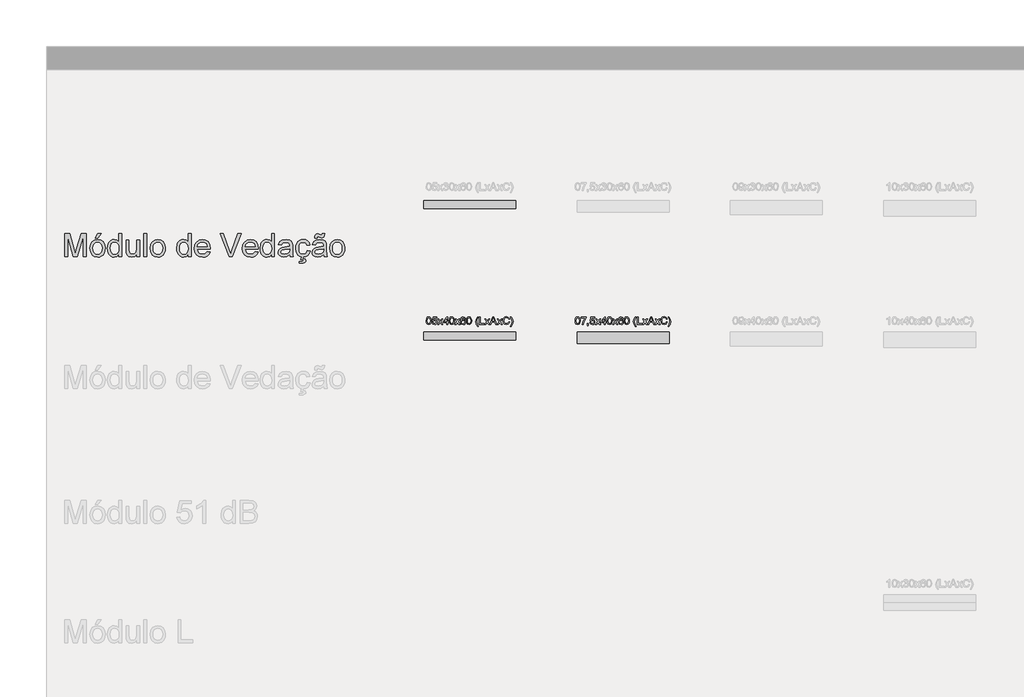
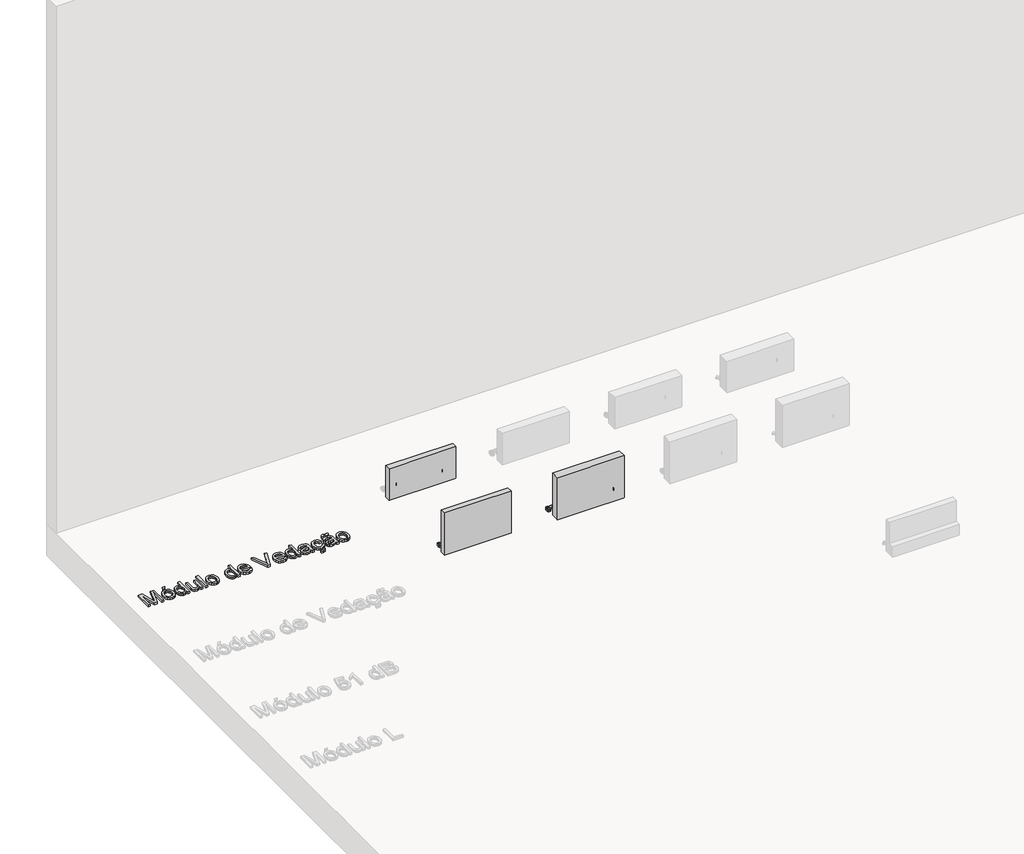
# One storey, part 17 of 26: 6 proxies.
"""IFC4 building model written with IfcOpenShell, lengths in millimetres."""

from ifc_helpers import new_model, si_unit, origin, origin_with_axes, place, context, project, spatial, polyline, outline, extrude, transform, mapped, element, save
from components import generic_models_c22f164a, generic_models_f29e977d, generic_models_ac451876

model = new_model("IFC4")

# Units and contexts
model_context = context("Model", 3, world=origin())
ifc_project = project(units=[si_unit("LENGTHUNIT", "METRE", prefix="MILLI")], contexts=[model_context])

# Site, building, storey
site = spatial("IfcSite", under=ifc_project)
building = spatial("IfcBuilding", under=site)
storey = spatial("IfcBuildingStorey", under=building, Name="Catálogo Celucon", Elevation=0.0)

# Proxies
placement = place(None, origin())
element("IfcBuildingElementProxy", 1, Name="Legenda Tabela de Módulos", ObjectType="Legenda Tabela de Módulos", at=placement, inside=storey, context=model_context, shape_type="SweptSolid", body=[
    extrude(outline(polyline([(-16139.397214, 985.3239878), (-16139.397214, 1136.0084531), (-16106.9868102, 1136.0084531), (-16076.158299, 1029.800921), (-16069.9410933, 1007.6176367), (-16063.2088528, 1031.640331), (-16032.8953764, 1136.0084531), (-16000.4849726, 1136.0084531), (-16000.4849726, 985.3239878), (-16019.3205308, 985.3239878), (-16019.3205308, 1117.1728949), (-16057.1755881, 985.3239878), (-16082.7065985, 985.3239878), (-16120.5616558, 1117.1728949), (-16120.5616558, 985.3239878), (-16139.397214, 985.3239878)])), origin_with_axes(), (0.0, 0.0, 1.0), 20.0),
    extrude(outline(polyline([(-15974.5860802, 1040.6534399), (-15970.5117871, 1067.3340816), (-15958.2889078, 1086.0868663), (-15943.1873519, 1095.2747191), (-15925.1059518, 1098.3373367), (-15905.318499, 1094.607933), (-15889.5133688, 1083.4197218), (-15879.1528921, 1065.65562), (-15875.6993999, 1042.1985443), (-15877.2261101, 1023.1698481), (-15881.806241, 1008.6844945), (-15889.3064352, 997.8365742), (-15899.5933354, 989.7201777), (-15911.8116162, 984.6572017), (-15925.1059518, 982.9695431), (-15945.1325279, 986.6851512), (-15960.919264, 997.8319757), (-15971.1693761, 1015.968558), (-15974.5860802, 1040.6534399)]), holes=[polyline([(-15955.750522, 1040.6902281), (-15953.5708212, 1023.6434962), (-15947.0317187, 1011.4987918), (-15937.1908754, 1004.2285239), (-15925.1059518, 1001.8051012), (-15913.0762106, 1004.2423194), (-15903.2537613, 1011.5539741), (-15896.7146588, 1023.8596268), (-15894.534958, 1041.2788393), (-15896.7284544, 1057.8289306), (-15903.3089436, 1069.808088), (-15913.1451884, 1077.078356), (-15925.1059518, 1079.5017786), (-15937.1908754, 1077.087553), (-15947.0317187, 1069.8448762), (-15953.5708212, 1057.727763), (-15955.750522, 1040.6902281)])]), origin_with_axes(), (0.0, 0.0, 1.0), 20.0),
    extrude(outline(polyline([(-15939.2694086, 1107.7551158), (-15925.14274, 1136.0084531), (-15901.5982923, 1136.0084531), (-15925.14274, 1107.7551158), (-15939.2694086, 1107.7551158)])), origin_with_axes(), (0.0, 0.0, 1.0), 20.0),
    extrude(outline(polyline([(-15786.2304986, 985.3239878), (-15786.2304986, 1003.0926882), (-15798.6925012, 988.0003293), (-15815.9185756, 982.9695431), (-15828.0954697, 984.7905589), (-15839.2422941, 990.2536066), (-15848.6784673, 998.9770084), (-15855.7234075, 1010.5790868), (-15860.1104003, 1024.5907923), (-15861.5727312, 1040.5430753), (-15856.18326, 1070.5254579), (-15849.4510195, 1082.4172434), (-15840.0332404, 1091.1636378), (-15828.6426942, 1096.543912), (-15815.992152, 1098.3373367), (-15798.6281219, 1093.2053829), (-15786.2304986, 1079.8696606), (-15786.2304986, 1136.0084531), (-15767.3949405, 1136.0084531), (-15767.3949405, 985.3239878), (-15786.2304986, 985.3239878)]), holes=[polyline([(-15842.7371731, 1040.6166517), (-15840.6126546, 1023.5791168), (-15834.239099, 1011.4620036), (-15824.9776698, 1004.2193268), (-15814.1895303, 1001.8051012), (-15803.4059893, 1004.1089622), (-15794.3790848, 1011.0205452), (-15788.2676452, 1022.6686089), (-15786.2304986, 1039.1819119), (-15788.3044334, 1057.2357208), (-15794.5262376, 1069.7529057), (-15803.7830683, 1077.0645604), (-15814.9620825, 1079.5017786), (-15825.8605866, 1077.1611294), (-15834.790922, 1070.1391818), (-15840.7506103, 1058.0772509), (-15842.7371731, 1040.6166517)])]), origin_with_axes(), (0.0, 0.0, 1.0), 20.0),
    extrude(outline(polyline([(-15668.5082602, 985.3239878), (-15668.5082602, 1004.343487), (-15683.2603282, 988.313029), (-15702.5005565, 982.9695431), (-15720.2140746, 986.7219394), (-15732.4277568, 996.1397185), (-15738.0379573, 1010.0088697), (-15739.1416032, 1027.5200527), (-15739.1416032, 1095.982892), (-15720.3060451, 1095.982892), (-15720.3060451, 1036.3860088), (-15719.1656109, 1017.1825686), (-15711.7160005, 1005.9069855), (-15697.6813024, 1001.8051012), (-15681.9543471, 1005.998956), (-15671.5616807, 1017.4216919), (-15668.5082602, 1038.4093597), (-15668.5082602, 1095.982892), (-15649.672702, 1095.982892), (-15649.672702, 985.3239878), (-15668.5082602, 985.3239878)])), origin_with_axes(), (0.0, 0.0, 1.0), 20.0),
    extrude(outline(polyline([(-15623.7738096, 985.3239878), (-15623.7738096, 1136.0084531), (-15604.9382514, 1136.0084531), (-15604.9382514, 985.3239878), (-15623.7738096, 985.3239878)])), origin_with_axes(), (0.0, 0.0, 1.0), 20.0),
    extrude(outline(polyline([(-15581.3938037, 1040.6534399), (-15577.3195106, 1067.3340816), (-15565.0966313, 1086.0868663), (-15549.9950754, 1095.2747191), (-15531.9136754, 1098.3373367), (-15512.1262226, 1094.607933), (-15496.3210923, 1083.4197218), (-15485.9606156, 1065.65562), (-15482.5071234, 1042.1985443), (-15484.0338337, 1023.1698481), (-15488.6139645, 1008.6844945), (-15496.1141587, 997.8365742), (-15506.401059, 989.7201777), (-15518.6193398, 984.6572017), (-15531.9136754, 982.9695431), (-15551.9402515, 986.6851512), (-15567.7269876, 997.8319757), (-15577.9770997, 1015.968558), (-15581.3938037, 1040.6534399)]), holes=[polyline([(-15562.5582456, 1040.6902281), (-15560.3785447, 1023.6434962), (-15553.8394423, 1011.4987918), (-15543.9985989, 1004.2285239), (-15531.9136754, 1001.8051012), (-15519.8839341, 1004.2423194), (-15510.0614849, 1011.5539741), (-15503.5223824, 1023.8596268), (-15501.3426816, 1041.2788393), (-15503.536178, 1057.8289306), (-15510.1166672, 1069.808088), (-15519.952912, 1077.078356), (-15531.9136754, 1079.5017786), (-15543.9985989, 1077.087553), (-15553.8394423, 1069.8448762), (-15560.3785447, 1057.727763), (-15562.5582456, 1040.6902281)])]), origin_with_axes(), (0.0, 0.0, 1.0), 20.0),
    extrude(outline(polyline([(-15334.177103, 985.3239878), (-15334.177103, 1003.0926882), (-15346.6391055, 988.0003293), (-15363.86518, 982.9695431), (-15376.042074, 984.7905589), (-15387.1888985, 990.2536066), (-15396.6250716, 998.9770084), (-15403.6700118, 1010.5790868), (-15408.0570046, 1024.5907923), (-15409.5193356, 1040.5430753), (-15404.1298643, 1070.5254579), (-15397.3976238, 1082.4172434), (-15387.9798448, 1091.1636378), (-15376.5892985, 1096.543912), (-15363.9387564, 1098.3373367), (-15346.5747262, 1093.2053829), (-15334.177103, 1079.8696606), (-15334.177103, 1136.0084531), (-15315.3415448, 1136.0084531), (-15315.3415448, 985.3239878), (-15334.177103, 985.3239878)]), holes=[polyline([(-15390.6837774, 1040.6166517), (-15388.5592589, 1023.5791168), (-15382.1857033, 1011.4620036), (-15372.9242741, 1004.2193268), (-15362.1361346, 1001.8051012), (-15351.3525936, 1004.1089622), (-15342.3256892, 1011.0205452), (-15336.2142495, 1022.6686089), (-15334.177103, 1039.1819119), (-15336.2510377, 1057.2357208), (-15342.472842, 1069.7529057), (-15351.7296727, 1077.0645604), (-15362.9086868, 1079.5017786), (-15373.8071909, 1077.1611294), (-15382.7375263, 1070.1391818), (-15388.6972146, 1058.0772509), (-15390.6837774, 1040.6166517)])]), origin_with_axes(), (0.0, 0.0, 1.0), 20.0),
    extrude(outline(polyline([(-15209.6122594, 1018.2862146), (-15191.1445832, 1015.9317698), (-15197.7986488, 1002.0166334), (-15208.4166429, 991.6147699), (-15222.7594422, 985.1308498), (-15240.5879234, 982.9695431), (-15262.6884342, 986.6989468), (-15279.6937795, 997.887158), (-15290.5371013, 1015.8076097), (-15294.1515419, 1039.7337349), (-15290.5003131, 1064.464602), (-15279.5466267, 1082.9598693), (-15262.7712077, 1094.4929699), (-15241.6547812, 1098.3373367), (-15221.1959437, 1094.5021669), (-15204.8481876, 1082.9966575), (-15194.1290259, 1064.5381784), (-15190.555972, 1039.8440995), (-15190.6663366, 1034.767328), (-15275.3159837, 1034.767328), (-15272.0556295, 1020.6682505), (-15264.481859, 1010.3031753), (-15253.5511652, 1003.9296197), (-15240.2200414, 1001.8051012), (-15221.7523652, 1005.7414386), (-15209.6122594, 1018.2862146)]), holes=[polyline([(-15275.3159837, 1053.6028861), (-15209.3915302, 1053.6028861), (-15211.939113, 1063.5540941), (-15216.9331111, 1070.6726107), (-15227.9143887, 1077.2944866), (-15241.7283576, 1079.5017786), (-15254.4248849, 1077.7405435), (-15264.9233174, 1072.4568384), (-15272.2211764, 1064.2208802), (-15275.3159837, 1053.6028861)])]), origin_with_axes(), (0.0, 0.0, 1.0), 20.0),
    extrude(outline(polyline([(-15065.9911285, 985.3239878), (-15125.9558937, 1136.0084531), (-15105.7959604, 1136.0084531), (-15065.6600347, 1027.4464763), (-15057.5298426, 1002.9823236), (-15049.5100151, 1027.4464763), (-15009.2637248, 1136.0084531), (-14989.1037915, 1136.0084531), (-15046.5301709, 985.3239878), (-15065.9911285, 985.3239878)])), origin_with_axes(), (0.0, 0.0, 1.0), 20.0),
    extrude(outline(polyline([(-14896.4711051, 1018.2862146), (-14878.0034289, 1015.9317698), (-14884.6574945, 1002.0166334), (-14895.2754886, 991.6147699), (-14909.6182879, 985.1308498), (-14927.4467691, 982.9695431), (-14949.54728, 986.6989468), (-14966.5526252, 997.887158), (-14977.395947, 1015.8076097), (-14981.0103876, 1039.7337349), (-14977.3591588, 1064.464602), (-14966.4054724, 1082.9598693), (-14949.6300534, 1094.4929699), (-14928.5136269, 1098.3373367), (-14908.0547894, 1094.5021669), (-14891.7070333, 1082.9966575), (-14880.9878716, 1064.5381784), (-14877.4148177, 1039.8440995), (-14877.5251823, 1034.767328), (-14962.1748294, 1034.767328), (-14958.9144753, 1020.6682505), (-14951.3407047, 1010.3031753), (-14940.4100109, 1003.9296197), (-14927.0788871, 1001.8051012), (-14908.6112109, 1005.7414386), (-14896.4711051, 1018.2862146)]), holes=[polyline([(-14962.1748294, 1053.6028861), (-14896.2503759, 1053.6028861), (-14898.7979587, 1063.5540941), (-14903.7919568, 1070.6726107), (-14914.7732344, 1077.2944866), (-14928.5872033, 1079.5017786), (-14941.2837306, 1077.7405435), (-14951.7821631, 1072.4568384), (-14959.0800222, 1064.2208802), (-14962.1748294, 1053.6028861)])]), origin_with_axes(), (0.0, 0.0, 1.0), 20.0),
    extrude(outline(polyline([(-14790.3003613, 985.3239878), (-14790.3003613, 1003.0926882), (-14802.7623639, 988.0003293), (-14819.9884383, 982.9695431), (-14832.1653323, 984.7905589), (-14843.3121568, 990.2536066), (-14852.74833, 998.9770084), (-14859.7932702, 1010.5790868), (-14864.180263, 1024.5907923), (-14865.6425939, 1040.5430753), (-14860.2531227, 1070.5254579), (-14853.5208822, 1082.4172434), (-14844.1031031, 1091.1636378), (-14832.7125568, 1096.543912), (-14820.0620147, 1098.3373367), (-14802.6979845, 1093.2053829), (-14790.3003613, 1079.8696606), (-14790.3003613, 1136.0084531), (-14771.4648031, 1136.0084531), (-14771.4648031, 985.3239878), (-14790.3003613, 985.3239878)]), holes=[polyline([(-14846.8070357, 1040.6166517), (-14844.6825172, 1023.5791168), (-14838.3089617, 1011.4620036), (-14829.0475324, 1004.2193268), (-14818.2593929, 1001.8051012), (-14807.4758519, 1004.1089622), (-14798.4489475, 1011.0205452), (-14792.3375078, 1022.6686089), (-14790.3003613, 1039.1819119), (-14792.374296, 1057.2357208), (-14798.5961003, 1069.7529057), (-14807.852931, 1077.0645604), (-14819.0319451, 1079.5017786), (-14829.9304492, 1077.1611294), (-14838.8607847, 1070.1391818), (-14844.820473, 1058.0772509), (-14846.8070357, 1040.6166517)])]), origin_with_axes(), (0.0, 0.0, 1.0), 20.0),
    extrude(outline(polyline([(-14672.5781228, 999.4506564), (-14690.8434639, 986.6851512), (-14711.0217913, 982.9695431), (-14726.7625422, 985.2044262), (-14738.3738177, 991.9090755), (-14745.533721, 1002.0902098), (-14747.9203554, 1014.7545474), (-14744.3151119, 1029.6537682), (-14734.8421505, 1040.4694989), (-14721.653581, 1046.6499164), (-14705.3564086, 1049.4826078), (-14672.6884874, 1055.9573309), (-14672.5781228, 1060.1511856), (-14673.8749069, 1068.5572892), (-14677.765259, 1074.0571251), (-14686.4656682, 1078.1406152), (-14698.5873799, 1079.5017786), (-14717.6436672, 1075.8781409), (-14726.7303525, 1063.0206652), (-14745.5659107, 1065.37511), (-14737.4173245, 1083.7692097), (-14721.0097875, 1094.5481522), (-14696.1593587, 1098.3373367), (-14673.3322809, 1094.9896106), (-14660.438017, 1086.583507), (-14654.6622697, 1073.7996077), (-14653.7425647, 1057.3184943), (-14653.7425647, 1033.8844112), (-14652.7860715, 1001.1613077), (-14649.0336751, 985.3239878), (-14667.8692333, 985.3239878), (-14672.5781228, 999.4506564)]), holes=[polyline([(-14672.5781228, 1037.1217728), (-14702.9651756, 1031.3460254), (-14719.1703775, 1028.2926049), (-14726.5096233, 1023.3261979), (-14729.0847973, 1016.0789226), (-14723.4745969, 1005.8885914), (-14707.0118776, 1001.8051012), (-14687.9555902, 1006.3116557), (-14675.6683316, 1017.2193568), (-14672.6884874, 1031.7874838), (-14672.5781228, 1037.1217728)])]), origin_with_axes(), (0.0, 0.0, 1.0), 20.0),
    extrude(outline(polyline([(-14557.2103291, 1025.3495489), (-14538.374771, 1022.9951041), (-14543.6262865, 1006.2426778), (-14553.494721, 993.5829386), (-14567.0511725, 985.622892), (-14583.8583326, 983.06037), (-14586.493736, 975.0968684), (-14571.7600621, 970.0936732), (-14566.6281082, 961.0805643), (-14568.4859123, 954.3299297), (-14574.0593245, 948.4254237), (-14583.3851331, 944.3143424), (-14596.5001262, 942.943982), (-14611.3625588, 942.943982), (-14611.3625588, 954.7162058), (-14600.9514984, 954.7162058), (-14586.309795, 956.8867096), (-14583.1092216, 960.9334115), (-14584.3968086, 963.600556), (-14589.1608804, 965.5871188), (-14600.1789462, 966.4884297), (-14594.9421317, 985.1082144), (-14603.4025122, 986.6713556), (-14619.0696866, 997.7767934), (-14629.181843, 1015.7984126), (-14632.5525618, 1040.2487697), (-14631.1132235, 1057.0103931), (-14626.7952085, 1071.5371334), (-14619.5295391, 1083.2679705), (-14609.2472374, 1091.6418844), (-14596.9461831, 1096.6634737), (-14583.6242564, 1098.3373367), (-14567.7087616, 1096.0380743), (-14554.9846431, 1089.1402869), (-14545.8565711, 1078.0118565), (-14540.7292158, 1063.0206652), (-14559.5647739, 1060.6662204), (-14568.3019713, 1074.774495), (-14583.4771036, 1079.5017786), (-14595.6493991, 1077.174925), (-14605.3109, 1070.1943641), (-14611.6154777, 1058.183017), (-14613.7170036, 1040.7638045), (-14611.661463, 1023.1100673), (-14605.494841, 1011.0573334), (-14596.0080841, 1004.1181593), (-14583.9921384, 1001.8051012), (-14574.238667, 1003.249038), (-14566.2418321, 1007.5808485), (-14560.4246981, 1014.9108973), (-14557.2103291, 1025.3495489)])), origin_with_axes(), (0.0, 0.0, 1.0), 20.0),
    extrude(outline(polyline([(-14451.2603145, 999.4506564), (-14469.5256556, 986.6851512), (-14489.703983, 982.9695431), (-14505.4447339, 985.2044262), (-14517.0560094, 991.9090755), (-14524.2159127, 1002.0902098), (-14526.6025471, 1014.7545474), (-14522.9973036, 1029.6537682), (-14513.5243422, 1040.4694989), (-14500.3357727, 1046.6499164), (-14484.0386003, 1049.4826078), (-14451.3706791, 1055.9573309), (-14451.2603145, 1060.1511856), (-14452.5570986, 1068.5572892), (-14456.4474507, 1074.0571251), (-14465.1478599, 1078.1406152), (-14477.2695716, 1079.5017786), (-14496.3258589, 1075.8781409), (-14505.4125442, 1063.0206652), (-14524.2481024, 1065.37511), (-14516.0995162, 1083.7692097), (-14499.6919792, 1094.5481522), (-14474.8415504, 1098.3373367), (-14452.0144726, 1094.9896106), (-14439.1202087, 1086.583507), (-14433.3444614, 1073.7996077), (-14432.4247564, 1057.3184943), (-14432.4247564, 1033.8844112), (-14431.4682632, 1001.1613077), (-14427.7158668, 985.3239878), (-14446.551425, 985.3239878), (-14451.2603145, 999.4506564)]), holes=[polyline([(-14451.2603145, 1037.1217728), (-14481.6473673, 1031.3460254), (-14497.8525692, 1028.2926049), (-14505.191815, 1023.3261979), (-14507.766989, 1016.0789226), (-14502.1567886, 1005.8885914), (-14485.6940693, 1001.8051012), (-14466.6377819, 1006.3116557), (-14454.3505233, 1017.2193568), (-14451.3706791, 1031.7874838), (-14451.2603145, 1037.1217728)])]), origin_with_axes(), (0.0, 0.0, 1.0), 20.0),
    extrude(outline(polyline([(-14510.1214338, 1107.7551158), (-14508.695891, 1119.3342016), (-14504.27211, 1128.3197194), (-14497.6042489, 1134.0862696), (-14489.2993128, 1136.0084531), (-14474.216151, 1129.9384001), (-14466.6009937, 1126.590674), (-14462.6094741, 1128.4852663), (-14460.6780936, 1136.0084531), (-14444.1969802, 1136.0084531), (-14445.8386536, 1123.647618), (-14450.1750626, 1114.8184501), (-14456.6267931, 1109.5209494), (-14464.614431, 1107.7551158), (-14479.5136518, 1113.4940749), (-14487.4599029, 1117.1728949), (-14491.9480632, 1114.7816619), (-14493.6403204, 1107.7551158), (-14510.1214338, 1107.7551158)])), origin_with_axes(), (0.0, 0.0, 1.0), 20.0),
    extrude(outline(polyline([(-14411.2347535, 1040.6534399), (-14407.1604604, 1067.3340816), (-14394.9375811, 1086.0868663), (-14379.8360252, 1095.2747191), (-14361.7546251, 1098.3373367), (-14341.9671723, 1094.607933), (-14326.1620421, 1083.4197218), (-14315.8015654, 1065.65562), (-14312.3480732, 1042.1985443), (-14313.8747834, 1023.1698481), (-14318.4549143, 1008.6844945), (-14325.9551085, 997.8365742), (-14336.2420087, 989.7201777), (-14348.4602895, 984.6572017), (-14361.7546251, 982.9695431), (-14381.7812012, 986.6851512), (-14397.5679373, 997.8319757), (-14407.8180494, 1015.968558), (-14411.2347535, 1040.6534399)]), holes=[polyline([(-14392.3991953, 1040.6902281), (-14390.2194945, 1023.6434962), (-14383.680392, 1011.4987918), (-14373.8395487, 1004.2285239), (-14361.7546251, 1001.8051012), (-14349.7248839, 1004.2423194), (-14339.9024346, 1011.5539741), (-14333.3633321, 1023.8596268), (-14331.1836313, 1041.2788393), (-14333.3771277, 1057.8289306), (-14339.9576169, 1069.808088), (-14349.7938617, 1077.078356), (-14361.7546251, 1079.5017786), (-14373.8395487, 1077.087553), (-14383.680392, 1069.8448762), (-14390.2194945, 1057.727763), (-14392.3991953, 1040.6902281)])]), origin_with_axes(), (0.0, 0.0, 1.0), 20.0),
])
element("IfcBuildingElementProxy", 2, Name="Dimensões", ObjectType="Dimensões", at=placement, inside=storey, context=model_context, shape_type="SweptSolid", body=[
    extrude(outline(polyline([(-13781.5709703, 567.890538), (-13779.725429, 582.3421691), (-13774.2439872, 590.6746963), (-13765.0898569, 593.4092858), (-13757.7567425, 591.790605), (-13752.6922337, 587.124635), (-13749.7491777, 579.6934187), (-13748.6087435, 567.890538), (-13750.4358908, 553.5002207), (-13755.8989384, 545.1492994), (-13765.0898569, 542.3963158), (-13776.5677752, 547.1787817), (-13780.3201715, 555.6737901), (-13781.5709703, 567.890538)]), holes=[polyline([(-13775.2924509, 567.9028008), (-13772.349395, 552.3107355), (-13765.0898569, 548.6748351), (-13757.8303189, 552.3229983), (-13754.8872629, 567.9028008), (-13757.732217, 583.3170564), (-13765.1634333, 587.1307664), (-13772.2512931, 583.7707775), (-13775.2924509, 567.9028008)])]), origin_with_axes(), (0.0, 0.0, 1.0), 20.0),
    extrude(outline(polyline([(-13743.1150391, 556.5229844), (-13736.8365197, 557.3077993), (-13733.6727345, 550.8392076), (-13727.1121723, 548.6748351), (-13719.2394976, 551.6853361), (-13716.4313317, 559.6745068), (-13719.061688, 567.1302486), (-13727.0140704, 569.8648381), (-13732.526169, 568.7734548), (-13736.0517048, 565.9407635), (-13742.3302242, 566.7255784), (-13736.8365197, 592.6244708), (-13712.5072571, 592.6244708), (-13712.5072571, 586.3459515), (-13731.7597482, 586.3459515), (-13734.4452867, 572.5135884), (-13725.2604996, 576.1433575), (-13714.5244767, 571.6429344), (-13710.1528123, 560.0669143), (-13714.0891497, 548.4173178), (-13719.7422697, 543.9015663), (-13727.1366978, 542.3963158), (-13738.2160772, 546.2652081), (-13743.1150391, 556.5229844)])), origin_with_axes(), (0.0, 0.0, 1.0), 20.0),
    extrude(outline(polyline([(-13707.0135526, 543.1811307), (-13693.5981225, 561.7223832), (-13706.2287377, 580.0674321), (-13698.6748941, 580.0674321), (-13692.5803157, 571.2382642), (-13689.7353616, 567.0689349), (-13687.2705522, 570.4779747), (-13680.3298452, 580.0674321), (-13672.7760016, 580.0674321), (-13686.0442789, 561.7223832), (-13673.2665109, 543.1811307), (-13680.8203546, 543.1811307), (-13688.5090883, 554.3279551), (-13689.9193026, 556.3635688), (-13699.459709, 543.1811307), (-13707.0135526, 543.1811307)])), origin_with_axes(), (0.0, 0.0, 1.0), 20.0),
    extrude(outline(polyline([(-13648.9372483, 543.1811307), (-13648.9372483, 554.9533545), (-13671.6968811, 554.9533545), (-13671.6968811, 561.2318739), (-13647.3676185, 592.6244708), (-13642.6587289, 592.6244708), (-13642.6587289, 561.2318739), (-13636.3802095, 561.2318739), (-13636.3802095, 554.9533545), (-13642.6587289, 554.9533545), (-13642.6587289, 543.1811307), (-13648.9372483, 543.1811307)]), holes=[polyline([(-13648.9372483, 561.2318739), (-13648.9372483, 580.6315178), (-13663.9713592, 561.2318739), (-13648.9372483, 561.2318739)])]), origin_with_axes(), (0.0, 0.0, 1.0), 20.0),
    extrude(outline(polyline([(-13630.8865051, 567.890538), (-13629.0409637, 582.3421691), (-13623.559522, 590.6746963), (-13614.4053917, 593.4092858), (-13607.0722773, 591.790605), (-13602.0077685, 587.124635), (-13599.0647125, 579.6934187), (-13597.9242783, 567.890538), (-13599.7514256, 553.5002207), (-13605.2144732, 545.1492994), (-13614.4053917, 542.3963158), (-13625.8833099, 547.1787817), (-13629.6357063, 555.6737901), (-13630.8865051, 567.890538)]), holes=[polyline([(-13624.6079857, 567.9028008), (-13621.6649297, 552.3107355), (-13614.4053917, 548.6748351), (-13607.1458537, 552.3229983), (-13604.2027977, 567.9028008), (-13607.0477518, 583.3170564), (-13614.4789681, 587.1307664), (-13621.5668279, 583.7707775), (-13624.6079857, 567.9028008)])]), origin_with_axes(), (0.0, 0.0, 1.0), 20.0),
    extrude(outline(polyline([(-13594.7850186, 543.1811307), (-13581.3695885, 561.7223832), (-13594.0002037, 580.0674321), (-13586.4463601, 580.0674321), (-13580.3517817, 571.2382642), (-13577.5068276, 567.0689349), (-13575.0420182, 570.4779747), (-13568.1013112, 580.0674321), (-13560.5474676, 580.0674321), (-13573.8157449, 561.7223832), (-13561.0379769, 543.1811307), (-13568.5918206, 543.1811307), (-13576.2805543, 554.3279551), (-13577.6907686, 556.3635688), (-13587.231175, 543.1811307), (-13594.7850186, 543.1811307)])), origin_with_axes(), (0.0, 0.0, 1.0), 20.0),
    extrude(outline(polyline([(-13524.9364905, 580.0674321), (-13531.2150099, 579.2826171), (-13533.5939801, 584.5188042), (-13539.8847622, 587.1307664), (-13545.5501449, 585.6101875), (-13549.8359702, 579.9018852), (-13551.6201979, 568.7121412), (-13546.0835738, 573.7214677), (-13539.2225746, 575.3585425), (-13528.5539968, 570.8826449), (-13524.1516755, 559.3188875), (-13526.2240775, 550.6552666), (-13531.9262484, 544.5239), (-13540.1545423, 542.3963158), (-13552.9507044, 548.037173), (-13556.661714, 555.5051775), (-13557.8987172, 566.6274765), (-13556.5252911, 579.1323987), (-13552.4050128, 587.6825894), (-13546.7794839, 591.9776117), (-13539.4923547, 593.4092858), (-13529.5718036, 589.8653559), (-13524.9364905, 580.0674321)]), holes=[polyline([(-13551.6201979, 559.4169894), (-13550.167064, 553.9784672), (-13546.304303, 550.0298672), (-13540.6450517, 548.6748351), (-13533.2444922, 551.483001), (-13530.4301949, 559.1104211), (-13533.207704, 566.4128787), (-13540.9025691, 569.0800231), (-13548.4993323, 566.4128787), (-13551.6201979, 559.4169894)])]), origin_with_axes(), (0.0, 0.0, 1.0), 20.0),
    extrude(outline(polyline([(-13518.6579711, 567.890538), (-13516.8124297, 582.3421691), (-13511.330988, 590.6746963), (-13502.1768577, 593.4092858), (-13494.8437433, 591.790605), (-13489.7792345, 587.124635), (-13486.8361785, 579.6934187), (-13485.6957443, 567.890538), (-13487.5228916, 553.5002207), (-13492.9859392, 545.1492994), (-13502.1768577, 542.3963158), (-13513.654776, 547.1787817), (-13517.4071723, 555.6737901), (-13518.6579711, 567.890538)]), holes=[polyline([(-13512.3794517, 567.9028008), (-13509.4363957, 552.3107355), (-13502.1768577, 548.6748351), (-13494.9173197, 552.3229983), (-13491.9742637, 567.9028008), (-13494.8192178, 583.3170564), (-13502.2504341, 587.1307664), (-13509.3382939, 583.7707775), (-13512.3794517, 567.9028008)])]), origin_with_axes(), (0.0, 0.0, 1.0), 20.0),
    extrude(outline(polyline([(-13446.4549982, 529.0544621), (-13455.3700052, 543.7820046), (-13459.0120369, 561.2686621), (-13456.2897102, 576.5357649), (-13446.4549982, 593.4092858), (-13441.7461086, 593.4092858), (-13447.6199578, 583.4642092), (-13451.151625, 573.8257009), (-13452.7335176, 561.2318739), (-13449.9866653, 545.1370366), (-13441.7461086, 529.0544621), (-13446.4549982, 529.0544621)])), origin_with_axes(), (0.0, 0.0, 1.0), 20.0),
    extrude(outline(polyline([(-13434.6827743, 543.1811307), (-13434.6827743, 593.4092858), (-13428.4042549, 593.4092858), (-13428.4042549, 549.4596501), (-13403.2901774, 549.4596501), (-13403.2901774, 543.1811307), (-13434.6827743, 543.1811307)])), origin_with_axes(), (0.0, 0.0, 1.0), 20.0),
    extrude(outline(polyline([(-13366.7594953, 543.1811307), (-13346.7099265, 593.4092858), (-13341.3633749, 593.4092858), (-13321.3138061, 543.1811307), (-13327.9479448, 543.1811307), (-13333.6991666, 558.8774291), (-13354.3863975, 558.8774291), (-13360.1253566, 543.1811307), (-13366.7594953, 543.1811307)]), holes=[polyline([(-13352.0810037, 565.1559485), (-13335.9922977, 565.1559485), (-13340.5172463, 577.5045208), (-13344.0366507, 587.1307664), (-13347.1636477, 578.5836414), (-13352.0810037, 565.1559485)])]), origin_with_axes(), (0.0, 0.0, 1.0), 20.0),
    extrude(outline(polyline([(-13400.9357326, 543.1811307), (-13387.5203025, 561.7223832), (-13400.1509177, 580.0674321), (-13392.5970741, 580.0674321), (-13386.5024957, 571.2382642), (-13383.6575416, 567.0689349), (-13381.1927322, 570.4779747), (-13374.2520252, 580.0674321), (-13366.6981816, 580.0674321), (-13379.9664589, 561.7223832), (-13367.1886909, 543.1811307), (-13374.7425346, 543.1811307), (-13382.4312683, 554.3279551), (-13383.8414826, 556.3635688), (-13393.381889, 543.1811307), (-13400.9357326, 543.1811307)])), origin_with_axes(), (0.0, 0.0, 1.0), 20.0),
    extrude(outline(polyline([(-13319.3149806, 543.1811307), (-13305.8995505, 561.7223832), (-13318.5301657, 580.0674321), (-13310.9763221, 580.0674321), (-13304.8817437, 571.2382642), (-13302.0367896, 567.0689349), (-13299.5719802, 570.4779747), (-13292.6312733, 580.0674321), (-13285.0774296, 580.0674321), (-13298.3457069, 561.7223832), (-13285.5679389, 543.1811307), (-13293.1217826, 543.1811307), (-13300.8105163, 554.3279551), (-13302.2207306, 556.3635688), (-13311.761137, 543.1811307), (-13319.3149806, 543.1811307)])), origin_with_axes(), (0.0, 0.0, 1.0), 20.0),
    extrude(outline(polyline([(-13243.972748, 561.0356702), (-13237.6942286, 559.4169894), (-13245.1377077, 546.7557174), (-13258.2833576, 542.3963158), (-13271.3492998, 545.694991), (-13279.0135081, 555.2476601), (-13281.6438643, 568.675353), (-13278.6701515, 582.323775), (-13270.214997, 591.171337), (-13258.1484676, 594.1941007), (-13245.5730347, 590.2822888), (-13238.4790436, 579.2703544), (-13244.7575629, 577.774301), (-13249.9079109, 585.4936915), (-13258.3937222, 587.9155813), (-13268.2161715, 585.2300427), (-13273.7650583, 578.0195556), (-13275.3653449, 568.6876157), (-13273.4707527, 557.871885), (-13267.572378, 550.9618349), (-13258.908757, 548.6748351), (-13249.3009056, 551.7895694), (-13243.972748, 561.0356702)])), origin_with_axes(), (0.0, 0.0, 1.0), 20.0),
    extrude(outline(polyline([(-13228.2764496, 529.0544621), (-13232.9853391, 529.0544621), (-13224.7447824, 545.1370366), (-13221.9979302, 561.2318739), (-13223.5798228, 573.7153363), (-13227.0747017, 583.3661073), (-13232.9853391, 593.4092858), (-13228.2764496, 593.4092858), (-13218.4417376, 576.5357649), (-13215.7194108, 561.2686621), (-13219.3798366, 543.7820046), (-13228.2764496, 529.0544621)])), origin_with_axes(), (0.0, 0.0, 1.0), 20.0),
])
element("IfcBuildingElementProxy", 3, Name="Dimensões", ObjectType="Dimensões", at=placement, inside=storey, context=model_context, shape_type="SweptSolid", body=[
    extrude(outline(polyline([(-12810.6091225, 567.890538), (-12808.7635811, 582.3421691), (-12803.2821394, 590.6746963), (-12794.1280091, 593.4092858), (-12786.7948946, 591.790605), (-12781.7303858, 587.124635), (-12778.7873299, 579.6934187), (-12777.6468957, 567.890538), (-12779.4740429, 553.5002207), (-12784.9370906, 545.1492994), (-12794.1280091, 542.3963158), (-12805.6059273, 547.1787817), (-12809.3583237, 555.6737901), (-12810.6091225, 567.890538)]), holes=[polyline([(-12804.3306031, 567.9028008), (-12801.3875471, 552.3107355), (-12794.1280091, 548.6748351), (-12786.868471, 552.3229983), (-12783.9254151, 567.9028008), (-12786.7703692, 583.3170564), (-12794.2015855, 587.1307664), (-12801.2894452, 583.7707775), (-12804.3306031, 567.9028008)])]), origin_with_axes(), (0.0, 0.0, 1.0), 20.0),
    extrude(outline(polyline([(-12772.1531912, 586.3459515), (-12772.1531912, 592.6244708), (-12739.1909645, 592.6244708), (-12739.1909645, 587.5476993), (-12748.5412985, 574.0402987), (-12755.6966033, 556.8295527), (-12758.0265226, 543.1811307), (-12764.305042, 543.1811307), (-12761.8095758, 557.3445875), (-12754.9608393, 573.3535857), (-12745.4694838, 586.3459515), (-12772.1531912, 586.3459515)])), origin_with_axes(), (0.0, 0.0, 1.0), 20.0),
    extrude(outline(polyline([(-12730.5580003, 543.1811307), (-12730.5580003, 549.4596501), (-12724.2794809, 549.4596501), (-12724.2794809, 543.1811307), (-12725.4076524, 536.7615899), (-12728.9883705, 532.9785367), (-12730.5580003, 535.3329815), (-12728.2526065, 538.0430455), (-12727.4310034, 543.1811307), (-12730.5580003, 543.1811307)])), origin_with_axes(), (0.0, 0.0, 1.0), 20.0),
    extrude(outline(polyline([(-12714.0768869, 556.5229844), (-12707.7983675, 557.3077993), (-12704.6345824, 550.8392076), (-12698.0740201, 548.6748351), (-12690.2013454, 551.6853361), (-12687.3931795, 559.6745068), (-12690.0235358, 567.1302486), (-12697.9759183, 569.8648381), (-12703.4880168, 568.7734548), (-12707.0135526, 565.9407635), (-12713.292072, 566.7255784), (-12707.7983675, 592.6244708), (-12683.4691049, 592.6244708), (-12683.4691049, 586.3459515), (-12702.721596, 586.3459515), (-12705.4071346, 572.5135884), (-12696.2223474, 576.1433575), (-12685.4863245, 571.6429344), (-12681.1146602, 560.0669143), (-12685.0509975, 548.4173178), (-12690.7041175, 543.9015663), (-12698.0985456, 542.3963158), (-12709.177925, 546.2652081), (-12714.0768869, 556.5229844)])), origin_with_axes(), (0.0, 0.0, 1.0), 20.0),
    extrude(outline(polyline([(-12677.9754005, 543.1811307), (-12664.5599704, 561.7223832), (-12677.1905855, 580.0674321), (-12669.6367419, 580.0674321), (-12663.5421635, 571.2382642), (-12660.6972094, 567.0689349), (-12658.2324001, 570.4779747), (-12651.2916931, 580.0674321), (-12643.7378494, 580.0674321), (-12657.0061267, 561.7223832), (-12644.2283588, 543.1811307), (-12651.7822024, 543.1811307), (-12659.4709361, 554.3279551), (-12660.8811504, 556.3635688), (-12670.4215568, 543.1811307), (-12677.9754005, 543.1811307)])), origin_with_axes(), (0.0, 0.0, 1.0), 20.0),
    extrude(outline(polyline([(-12619.8990962, 543.1811307), (-12619.8990962, 554.9533545), (-12642.6587289, 554.9533545), (-12642.6587289, 561.2318739), (-12618.3294663, 592.6244708), (-12613.6205768, 592.6244708), (-12613.6205768, 561.2318739), (-12607.3420574, 561.2318739), (-12607.3420574, 554.9533545), (-12613.6205768, 554.9533545), (-12613.6205768, 543.1811307), (-12619.8990962, 543.1811307)]), holes=[polyline([(-12619.8990962, 561.2318739), (-12619.8990962, 580.6315178), (-12634.933207, 561.2318739), (-12619.8990962, 561.2318739)])]), origin_with_axes(), (0.0, 0.0, 1.0), 20.0),
    extrude(outline(polyline([(-12601.8483529, 567.890538), (-12600.0028116, 582.3421691), (-12594.5213699, 590.6746963), (-12585.3672395, 593.4092858), (-12578.0341251, 591.790605), (-12572.9696163, 587.124635), (-12570.0265603, 579.6934187), (-12568.8861262, 567.890538), (-12570.7132734, 553.5002207), (-12576.176321, 545.1492994), (-12585.3672395, 542.3963158), (-12596.8451578, 547.1787817), (-12600.5975541, 555.6737901), (-12601.8483529, 567.890538)]), holes=[polyline([(-12595.5698335, 567.9028008), (-12592.6267776, 552.3107355), (-12585.3672395, 548.6748351), (-12578.1077015, 552.3229983), (-12575.1646455, 567.9028008), (-12578.0095996, 583.3170564), (-12585.4408159, 587.1307664), (-12592.5286757, 583.7707775), (-12595.5698335, 567.9028008)])]), origin_with_axes(), (0.0, 0.0, 1.0), 20.0),
    extrude(outline(polyline([(-12565.7468665, 543.1811307), (-12552.3314364, 561.7223832), (-12564.9620515, 580.0674321), (-12557.4082079, 580.0674321), (-12551.3136295, 571.2382642), (-12548.4686754, 567.0689349), (-12546.0038661, 570.4779747), (-12539.0631591, 580.0674321), (-12531.5093155, 580.0674321), (-12544.7775927, 561.7223832), (-12531.9998248, 543.1811307), (-12539.5536684, 543.1811307), (-12547.2424021, 554.3279551), (-12548.6526164, 556.3635688), (-12558.1930228, 543.1811307), (-12565.7468665, 543.1811307)])), origin_with_axes(), (0.0, 0.0, 1.0), 20.0),
    extrude(outline(polyline([(-12495.8983383, 580.0674321), (-12502.1768577, 579.2826171), (-12504.5558279, 584.5188042), (-12510.8466101, 587.1307664), (-12516.5119928, 585.6101875), (-12520.797818, 579.9018852), (-12522.5820457, 568.7121412), (-12517.0454217, 573.7214677), (-12510.1844225, 575.3585425), (-12499.5158446, 570.8826449), (-12495.1135234, 559.3188875), (-12497.1859253, 550.6552666), (-12502.8880962, 544.5239), (-12511.1163902, 542.3963158), (-12523.9125523, 548.037173), (-12527.6235619, 555.5051775), (-12528.8605651, 566.6274765), (-12527.487139, 579.1323987), (-12523.3668606, 587.6825894), (-12517.7413318, 591.9776117), (-12510.4542026, 593.4092858), (-12500.5336515, 589.8653559), (-12495.8983383, 580.0674321)]), holes=[polyline([(-12522.5820457, 559.4169894), (-12521.1289118, 553.9784672), (-12517.2661509, 550.0298672), (-12511.6068995, 548.6748351), (-12504.20634, 551.483001), (-12501.3920428, 559.1104211), (-12504.1695518, 566.4128787), (-12511.8644169, 569.0800231), (-12519.4611801, 566.4128787), (-12522.5820457, 559.4169894)])]), origin_with_axes(), (0.0, 0.0, 1.0), 20.0),
    extrude(outline(polyline([(-12489.6198189, 567.890538), (-12487.7742776, 582.3421691), (-12482.2928359, 590.6746963), (-12473.1387056, 593.4092858), (-12465.8055911, 591.790605), (-12460.7410823, 587.124635), (-12457.7980264, 579.6934187), (-12456.6575922, 567.890538), (-12458.4847394, 553.5002207), (-12463.947787, 545.1492994), (-12473.1387056, 542.3963158), (-12484.6166238, 547.1787817), (-12488.3690202, 555.6737901), (-12489.6198189, 567.890538)]), holes=[polyline([(-12483.3412996, 567.9028008), (-12480.3982436, 552.3107355), (-12473.1387056, 548.6748351), (-12465.8791675, 552.3229983), (-12462.9361116, 567.9028008), (-12465.7810656, 583.3170564), (-12473.212282, 587.1307664), (-12480.3001417, 583.7707775), (-12483.3412996, 567.9028008)])]), origin_with_axes(), (0.0, 0.0, 1.0), 20.0),
    extrude(outline(polyline([(-12417.416846, 529.0544621), (-12426.331853, 543.7820046), (-12429.9738848, 561.2686621), (-12427.251558, 576.5357649), (-12417.416846, 593.4092858), (-12412.7079565, 593.4092858), (-12418.5818057, 583.4642092), (-12422.1134728, 573.8257009), (-12423.6953654, 561.2318739), (-12420.9485132, 545.1370366), (-12412.7079565, 529.0544621), (-12417.416846, 529.0544621)])), origin_with_axes(), (0.0, 0.0, 1.0), 20.0),
    extrude(outline(polyline([(-12405.6446222, 543.1811307), (-12405.6446222, 593.4092858), (-12399.3661028, 593.4092858), (-12399.3661028, 549.4596501), (-12374.2520252, 549.4596501), (-12374.2520252, 543.1811307), (-12405.6446222, 543.1811307)])), origin_with_axes(), (0.0, 0.0, 1.0), 20.0),
    extrude(outline(polyline([(-12337.7213431, 543.1811307), (-12317.6717744, 593.4092858), (-12312.3252227, 593.4092858), (-12292.275654, 543.1811307), (-12298.9097926, 543.1811307), (-12304.6610145, 558.8774291), (-12325.3482454, 558.8774291), (-12331.0872045, 543.1811307), (-12337.7213431, 543.1811307)]), holes=[polyline([(-12323.0428515, 565.1559485), (-12306.9541456, 565.1559485), (-12311.4790941, 577.5045208), (-12314.9984986, 587.1307664), (-12318.1254955, 578.5836414), (-12323.0428515, 565.1559485)])]), origin_with_axes(), (0.0, 0.0, 1.0), 20.0),
    extrude(outline(polyline([(-12371.8975805, 543.1811307), (-12358.4821504, 561.7223832), (-12371.1127656, 580.0674321), (-12363.5589219, 580.0674321), (-12357.4643435, 571.2382642), (-12354.6193894, 567.0689349), (-12352.1545801, 570.4779747), (-12345.2138731, 580.0674321), (-12337.6600295, 580.0674321), (-12350.9283068, 561.7223832), (-12338.1505388, 543.1811307), (-12345.7043824, 543.1811307), (-12353.3931161, 554.3279551), (-12354.8033304, 556.3635688), (-12364.3437368, 543.1811307), (-12371.8975805, 543.1811307)])), origin_with_axes(), (0.0, 0.0, 1.0), 20.0),
    extrude(outline(polyline([(-12290.2768285, 543.1811307), (-12276.8613984, 561.7223832), (-12289.4920136, 580.0674321), (-12281.9381699, 580.0674321), (-12275.8435915, 571.2382642), (-12272.9986374, 567.0689349), (-12270.5338281, 570.4779747), (-12263.5931211, 580.0674321), (-12256.0392775, 580.0674321), (-12269.3075548, 561.7223832), (-12256.5297868, 543.1811307), (-12264.0836304, 543.1811307), (-12271.7723641, 554.3279551), (-12273.1825784, 556.3635688), (-12282.7229848, 543.1811307), (-12290.2768285, 543.1811307)])), origin_with_axes(), (0.0, 0.0, 1.0), 20.0),
    extrude(outline(polyline([(-12214.9345959, 561.0356702), (-12208.6560765, 559.4169894), (-12216.0995555, 546.7557174), (-12229.2452055, 542.3963158), (-12242.3111477, 545.694991), (-12249.9753559, 555.2476601), (-12252.6057122, 568.675353), (-12249.6319994, 582.323775), (-12241.1768449, 591.171337), (-12229.1103154, 594.1941007), (-12216.5348825, 590.2822888), (-12209.4408914, 579.2703544), (-12215.7194108, 577.774301), (-12220.8697587, 585.4936915), (-12229.3555701, 587.9155813), (-12239.1780194, 585.2300427), (-12244.7269061, 578.0195556), (-12246.3271928, 568.6876157), (-12244.4326005, 557.871885), (-12238.5342259, 550.9618349), (-12229.8706049, 548.6748351), (-12220.2627534, 551.7895694), (-12214.9345959, 561.0356702)])), origin_with_axes(), (0.0, 0.0, 1.0), 20.0),
    extrude(outline(polyline([(-12199.2382974, 529.0544621), (-12203.9471869, 529.0544621), (-12195.7066303, 545.1370366), (-12192.959778, 561.2318739), (-12194.5416706, 573.7153363), (-12198.0365496, 583.3661073), (-12203.9471869, 593.4092858), (-12199.2382974, 593.4092858), (-12189.4035854, 576.5357649), (-12186.6812586, 561.2686621), (-12190.3416845, 543.7820046), (-12199.2382974, 529.0544621)])), origin_with_axes(), (0.0, 0.0, 1.0), 20.0),
])
generic_models_shape = generic_models_c22f164a(model_context)
element("IfcBuildingElementProxy", 4, Name="Módulo de Vedação de Concreto Celular - Celucon : MVCC 05x30x60cm (L x A x C)", ObjectType="Módulo de Vedação de Concreto Celular - Celucon : MVCC 05x30x60cm (L x A x C)", at=placement, inside=storey, context=model_context, shape_type="MappedRepresentation", body=[
    mapped(generic_models_shape, transform((-13497.8603756, 1325.3239878, 0.0), x_axis=(1.0, 0.0, 0.0), y_axis=(0.0, 1.0, 0.0), z_axis=(0.0, 0.0, 1.0))),
])
generic_models_2_shape = generic_models_f29e977d(model_context)
element("IfcBuildingElementProxy", 5, Name="Módulo de Vedação de Concreto Celular - Celucon : MVCC 07,5x40x60cm (L x A x C)", ObjectType="Módulo de Vedação de Concreto Celular - Celucon : MVCC 07,5x40x60cm (L x A x C)", at=placement, inside=storey, context=model_context, shape_type="MappedRepresentation", body=[
    mapped(generic_models_2_shape, transform((-12497.8603756, 455.6811307, 0.0), x_axis=(1.0, 0.0, 0.0), y_axis=(0.0, 1.0, 0.0), z_axis=(0.0, 0.0, 1.0))),
])
generic_models_3_shape = generic_models_ac451876(model_context)
element("IfcBuildingElementProxy", 6, Name="Módulo de Vedação de Concreto Celular - Celucon : MVCC 05x40x60cm (L x A x C)", ObjectType="Módulo de Vedação de Concreto Celular - Celucon : MVCC 05x40x60cm (L x A x C)", at=placement, inside=storey, context=model_context, shape_type="MappedRepresentation", body=[
    mapped(generic_models_3_shape, transform((-13497.8603756, 468.1811307, 0.0), x_axis=(1.0, 0.0, 0.0), y_axis=(0.0, 1.0, 0.0), z_axis=(0.0, 0.0, 1.0))),
])

save(model, "model.ifc")
